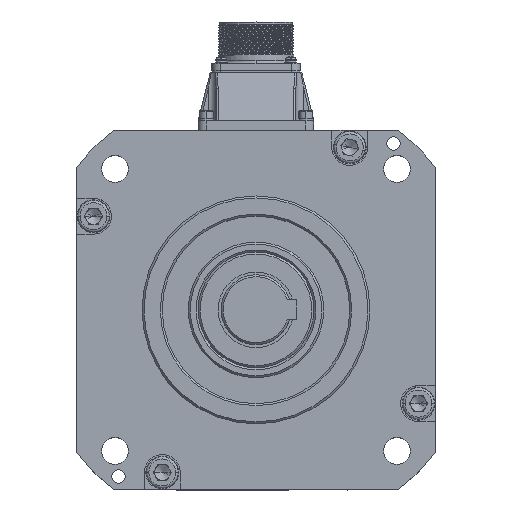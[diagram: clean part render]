
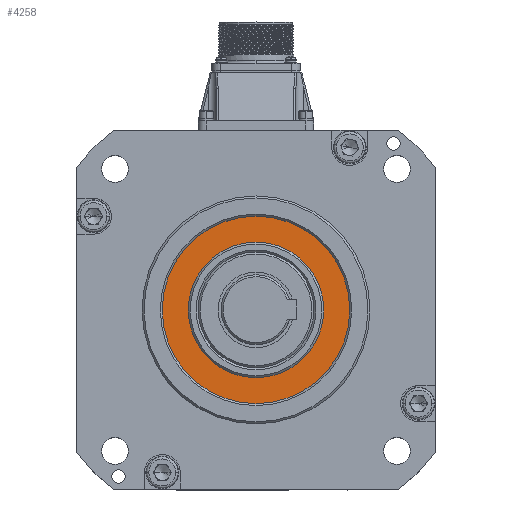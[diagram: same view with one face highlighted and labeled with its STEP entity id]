
A CAD part, top view. The second image highlights one B-rep face of the part: STEP entity #4258.
In plain terms, the highlighted planar face has unit normal (0, 0, 1).
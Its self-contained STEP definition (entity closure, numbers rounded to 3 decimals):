
#2684 = CARTESIAN_POINT ( 'NONE',  ( 85.297, 173.999, 279.486 ) ) ;
#4258 = ADVANCED_FACE ( 'NONE', ( #100872, #58095 ), #63122, .T. ) ;
#5740 = CARTESIAN_POINT ( 'NONE',  ( 85.297, 207.999, 279.486 ) ) ;
#10817 = DIRECTION ( 'NONE',  ( 0., -1., 0. ) ) ;
#11558 = ORIENTED_EDGE ( 'NONE', *, *, #66875, .T. ) ;
#14521 = DIRECTION ( 'NONE',  ( 0., 0., 1. ) ) ;
#16426 = AXIS2_PLACEMENT_3D ( 'NONE', #95096, #14521, #71238 ) ;
#22106 = EDGE_LOOP ( 'NONE', ( #100084, #61842 ) ) ;
#23218 = CARTESIAN_POINT ( 'NONE',  ( 85.297, 173.999, 279.486 ) ) ;
#29413 = AXIS2_PLACEMENT_3D ( 'NONE', #23218, #79818, #31409 ) ;
#31409 = DIRECTION ( 'NONE',  ( 0., -1., 0. ) ) ;
#35790 = CARTESIAN_POINT ( 'NONE',  ( 85.297, 173.999, 279.486 ) ) ;
#43899 = DIRECTION ( 'NONE',  ( 0., -1., 0. ) ) ;
#44217 = CARTESIAN_POINT ( 'NONE',  ( 85.297, 173.999, 279.486 ) ) ;
#45666 = AXIS2_PLACEMENT_3D ( 'NONE', #35790, #92217, #43899 ) ;
#47396 = VERTEX_POINT ( 'NONE', #47427 ) ;
#47427 = CARTESIAN_POINT ( 'NONE',  ( 85.297, 126.999, 279.486 ) ) ;
#48225 = ORIENTED_EDGE ( 'NONE', *, *, #84462, .T. ) ;
#50271 = VERTEX_POINT ( 'NONE', #5740 ) ;
#50451 = CIRCLE ( 'NONE', #75110, 34. ) ;
#52351 = DIRECTION ( 'NONE',  ( 0., -1., 0. ) ) ;
#55803 = CIRCLE ( 'NONE', #45666, 47. ) ;
#57477 = AXIS2_PLACEMENT_3D ( 'NONE', #2684, #59430, #10817 ) ;
#58095 = FACE_OUTER_BOUND ( 'NONE', #65221, .T. ) ;
#58402 = VERTEX_POINT ( 'NONE', #83362 ) ;
#59430 = DIRECTION ( 'NONE',  ( 0., 0., 1. ) ) ;
#61842 = ORIENTED_EDGE ( 'NONE', *, *, #99992, .F. ) ;
#63122 = PLANE ( 'NONE',  #16426 ) ;
#65221 = EDGE_LOOP ( 'NONE', ( #48225, #11558 ) ) ;
#66875 = EDGE_CURVE ( 'NONE', #47396, #58402, #82659, .T. ) ;
#68402 = VERTEX_POINT ( 'NONE', #78770 ) ;
#71238 = DIRECTION ( 'NONE',  ( 0., -1., 0. ) ) ;
#72296 = EDGE_CURVE ( 'NONE', #50271, #68402, #50451, .T. ) ;
#75110 = AXIS2_PLACEMENT_3D ( 'NONE', #44217, #100586, #52351 ) ;
#78770 = CARTESIAN_POINT ( 'NONE',  ( 85.297, 139.999, 279.486 ) ) ;
#79818 = DIRECTION ( 'NONE',  ( 0., 0., 1. ) ) ;
#81018 = CIRCLE ( 'NONE', #57477, 34. ) ;
#82659 = CIRCLE ( 'NONE', #29413, 47. ) ;
#83362 = CARTESIAN_POINT ( 'NONE',  ( 85.297, 220.999, 279.486 ) ) ;
#84462 = EDGE_CURVE ( 'NONE', #58402, #47396, #55803, .T. ) ;
#92217 = DIRECTION ( 'NONE',  ( 0., 0., 1. ) ) ;
#95096 = CARTESIAN_POINT ( 'NONE',  ( 85.297, 173.999, 279.486 ) ) ;
#99992 = EDGE_CURVE ( 'NONE', #68402, #50271, #81018, .T. ) ;
#100084 = ORIENTED_EDGE ( 'NONE', *, *, #72296, .F. ) ;
#100586 = DIRECTION ( 'NONE',  ( 0., 0., 1. ) ) ;
#100872 = FACE_BOUND ( 'NONE', #22106, .T. ) ;
